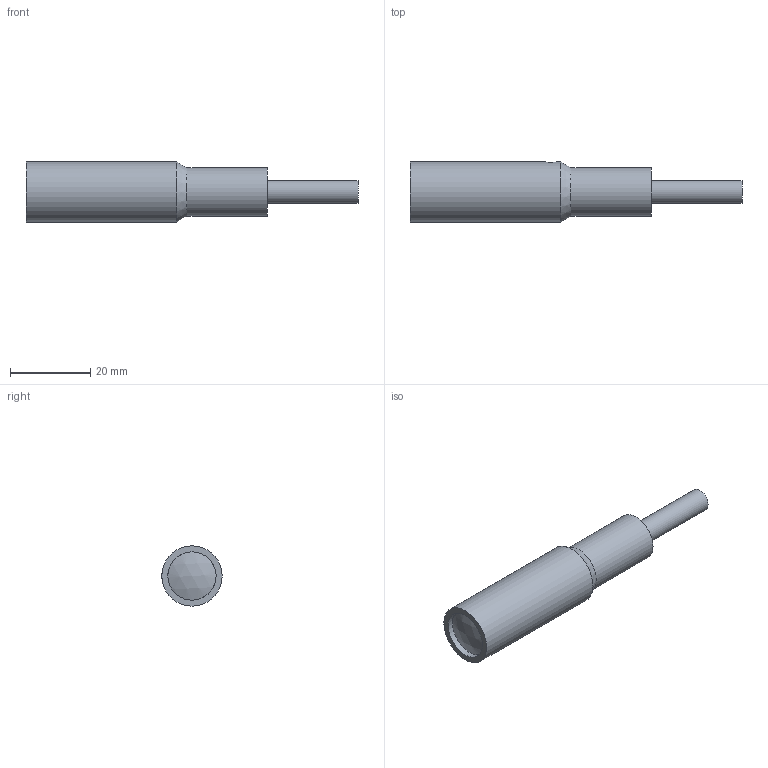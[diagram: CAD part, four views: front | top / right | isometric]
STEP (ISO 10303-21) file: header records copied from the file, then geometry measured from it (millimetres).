
FILE_DESCRIPTION((''),'2;1');
FILE_NAME('Q:\Konstruktion\E-Mail-Zeichnungen\STEP\KL-4.stp','2009-10-29T14:55:15',('GuentherB'),(''),'Autodesk Inventor 2009','Autodesk Inventor 2009','');
FILE_SCHEMA(('AUTOMOTIVE_DESIGN { 1 0 10303 214 1 1 1 1 }'));
Length unit declared in the file: millimetre
Products named in the file (1): Bauteil1
Bounding box: 82.5 x 15 x 15 mm (x, y, z)
Volume: 9706.6 mm3; surface area: 3416 mm2
Topology: 1 solids, 1 shells, 21 faces, 46 edges, 30 vertices
Faces by surface type: plane 10, cylinder 6, cone 2, bspline 2, sphere 1
Full cylindrical faces by diameter (mm): 5.7 x1, 12 x1, 15 x1
Entity records: 734 total; most frequent: CARTESIAN_POINT 244, DIRECTION 86, ORIENTED_EDGE 70, AXIS2_PLACEMENT_3D 37, EDGE_CURVE 35, EDGE_LOOP 32, VERTEX_POINT 27, FACE_OUTER_BOUND 21
